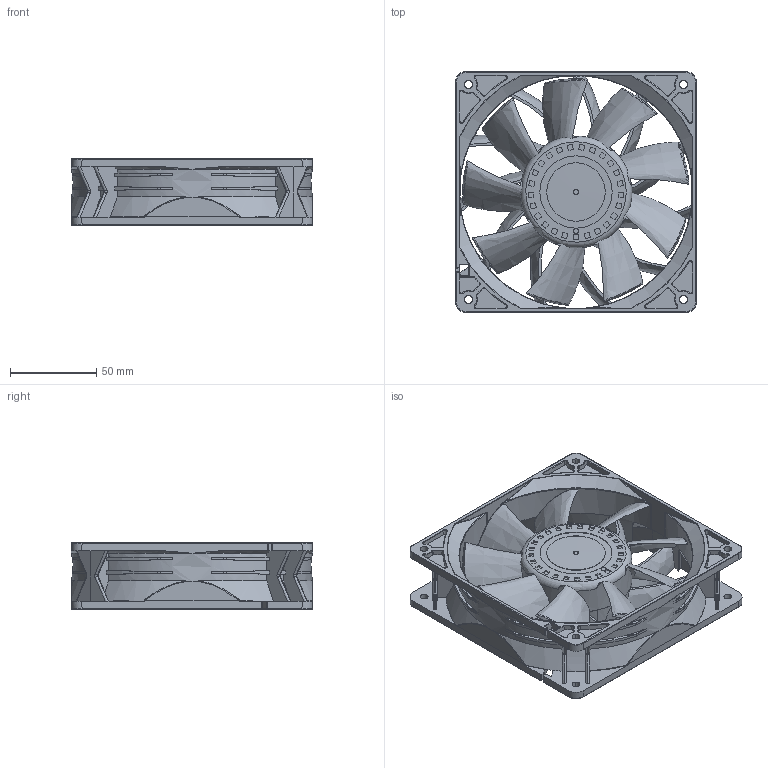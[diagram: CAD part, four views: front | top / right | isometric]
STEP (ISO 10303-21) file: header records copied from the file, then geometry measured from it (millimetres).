
FILE_DESCRIPTION(/* description */ (''),/* implementation_level */ '2;1');
FILE_NAME(/* name */ '14038.stp',/* time_stamp */ '2025-03-05T11:38:54+08:00',/* author */ (''),/* organization */ (''),/* preprocessor_version */ 'ST-DEVELOPER v16',/* originating_system */ 'SIEMENS PLM Software NX 10.0',/* authorisation */ '');
FILE_SCHEMA (('CONFIG_CONTROL_DESIGN'));
Length unit declared in the file: millimetre
Products named in the file (1): 1438K1-3D_stp
Bounding box: 140.59 x 140.59 x 38.5 mm (x, y, z)
Volume: 32064.5 mm3; surface area: 130284.9 mm2
Topology: 1 solids, 2 shells, 1541 faces, 4245 edges, 2742 vertices
Faces by surface type: plane 496, cylinder 470, bspline 354, cone 130, torus 58, extrusion 18, revolution 15
Full cylindrical faces by diameter (mm): 3 x2, 33.999 x1, 41.999 x1
Entity records: 77772 total; most frequent: CARTESIAN_POINT 42488, ORIENTED_EDGE 8472, DIRECTION 5958, EDGE_CURVE 4236, VERTEX_POINT 2753, AXIS2_PLACEMENT_3D 2413, B_SPLINE_CURVE_WITH_KNOTS 1789, EDGE_LOOP 1635
